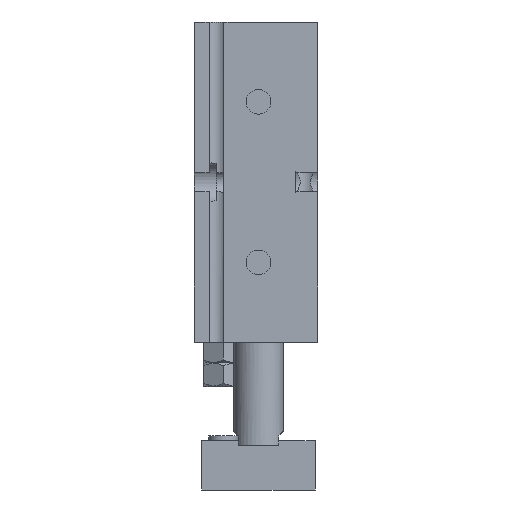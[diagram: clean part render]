
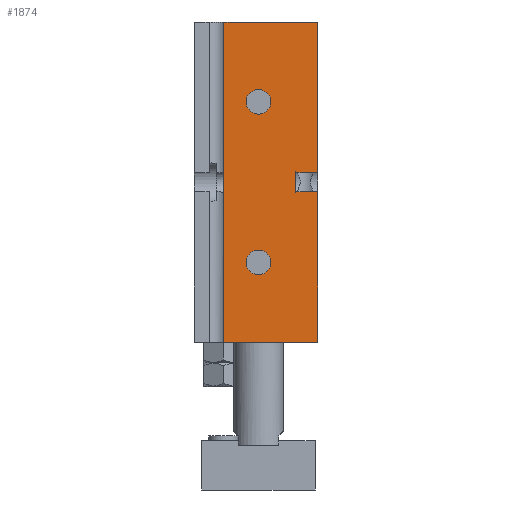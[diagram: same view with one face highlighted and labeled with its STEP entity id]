
A CAD part, front view. The second image highlights one B-rep face of the part: STEP entity #1874.
In plain terms, the highlighted planar face has unit normal (0, -1, 0).
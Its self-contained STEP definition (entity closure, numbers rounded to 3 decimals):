
#1431=CARTESIAN_POINT('',(-7.,-31.,95.0));
#1432=VERTEX_POINT('',#1431);
#1440=CARTESIAN_POINT('',(-7.,-31.,30.0));
#1441=VERTEX_POINT('',#1440);
#1448=CARTESIAN_POINT('',(-7.,-31.,95.0));
#1449=DIRECTION('',(0.0,0.0,-1.0));
#1450=VECTOR('',#1449,65.0);
#1451=LINE('',#1448,#1450);
#1452=EDGE_CURVE('',#1432,#1441,#1451,.T.);
#1603=CARTESIAN_POINT('',(12.,-31.,95.0));
#1604=VERTEX_POINT('',#1603);
#1605=CARTESIAN_POINT('',(12.,-31.,95.0));
#1606=DIRECTION('',(-1.0,0.0,0.0));
#1607=VECTOR('',#1606,19.);
#1608=LINE('',#1605,#1607);
#1609=EDGE_CURVE('',#1604,#1432,#1608,.T.);
#1797=CARTESIAN_POINT('',(12.,-31.,30.0));
#1798=DIRECTION('',(0.0,-1.0,0.0));
#1799=DIRECTION('',(0.0,0.0,-1.0));
#1800=AXIS2_PLACEMENT_3D('',#1797,#1798,#1799);
#1801=PLANE('',#1800);
#1802=ORIENTED_EDGE('',*,*,#1452,.T.);
#1803=CARTESIAN_POINT('',(12.,-31.,30.0));
#1804=VERTEX_POINT('',#1803);
#1805=CARTESIAN_POINT('',(12.,-31.,30.0));
#1806=DIRECTION('',(-1.0,0.0,0.0));
#1807=VECTOR('',#1806,19.);
#1808=LINE('',#1805,#1807);
#1809=EDGE_CURVE('',#1804,#1441,#1808,.T.);
#1810=ORIENTED_EDGE('',*,*,#1809,.F.);
#1811=CARTESIAN_POINT('',(12.,-31.,60.564));
#1812=VERTEX_POINT('',#1811);
#1813=CARTESIAN_POINT('',(12.,-31.,30.0));
#1814=DIRECTION('',(0.0,0.0,1.0));
#1815=VECTOR('',#1814,30.564);
#1816=LINE('',#1813,#1815);
#1817=EDGE_CURVE('',#1804,#1812,#1816,.T.);
#1818=ORIENTED_EDGE('',*,*,#1817,.T.);
#1819=CARTESIAN_POINT('',(7.6,-31.,60.564));
#1820=VERTEX_POINT('',#1819);
#1821=CARTESIAN_POINT('',(12.,-31.,60.564));
#1822=DIRECTION('',(-1.0,0.0,0.0));
#1823=VECTOR('',#1822,4.4);
#1824=LINE('',#1821,#1823);
#1825=EDGE_CURVE('',#1812,#1820,#1824,.T.);
#1826=ORIENTED_EDGE('',*,*,#1825,.T.);
#1827=CARTESIAN_POINT('',(7.6,-31.,64.436));
#1828=VERTEX_POINT('',#1827);
#1829=CARTESIAN_POINT('',(7.6,-31.,60.564));
#1830=DIRECTION('',(0.0,0.0,1.0));
#1831=VECTOR('',#1830,3.873);
#1832=LINE('',#1829,#1831);
#1833=EDGE_CURVE('',#1820,#1828,#1832,.T.);
#1834=ORIENTED_EDGE('',*,*,#1833,.T.);
#1835=CARTESIAN_POINT('',(12.,-31.,64.436));
#1836=VERTEX_POINT('',#1835);
#1837=CARTESIAN_POINT('',(7.6,-31.,64.436));
#1838=DIRECTION('',(1.0,0.0,0.0));
#1839=VECTOR('',#1838,4.4);
#1840=LINE('',#1837,#1839);
#1841=EDGE_CURVE('',#1828,#1836,#1840,.T.);
#1842=ORIENTED_EDGE('',*,*,#1841,.T.);
#1843=CARTESIAN_POINT('',(12.,-31.,64.436));
#1844=DIRECTION('',(0.0,0.0,1.0));
#1845=VECTOR('',#1844,30.564);
#1846=LINE('',#1843,#1845);
#1847=EDGE_CURVE('',#1836,#1604,#1846,.T.);
#1848=ORIENTED_EDGE('',*,*,#1847,.T.);
#1849=ORIENTED_EDGE('',*,*,#1609,.T.);
#1850=EDGE_LOOP('',(#1802,#1810,#1818,#1826,#1834,#1842,#1848,#1849));
#1851=FACE_OUTER_BOUND('',#1850,.T.);
#1852=CARTESIAN_POINT('',(2.5,-31.,78.8));
#1853=VERTEX_POINT('',#1852);
#1854=CARTESIAN_POINT('',(0.0,-31.,78.8));
#1855=DIRECTION('',(0.0,1.0,0.0));
#1856=DIRECTION('',(-1.0,0.0,0.0));
#1857=AXIS2_PLACEMENT_3D('',#1854,#1855,#1856);
#1858=CIRCLE('',#1857,2.5);
#1859=EDGE_CURVE('',#1853,#1853,#1858,.T.);
#1860=ORIENTED_EDGE('',*,*,#1859,.T.);
#1861=EDGE_LOOP('',(#1860));
#1862=FACE_BOUND('',#1861,.T.);
#1863=CARTESIAN_POINT('',(2.5,-31.,46.2));
#1864=VERTEX_POINT('',#1863);
#1865=CARTESIAN_POINT('',(0.0,-31.,46.2));
#1866=DIRECTION('',(0.0,1.0,0.0));
#1867=DIRECTION('',(-1.0,0.0,0.0));
#1868=AXIS2_PLACEMENT_3D('',#1865,#1866,#1867);
#1869=CIRCLE('',#1868,2.5);
#1870=EDGE_CURVE('',#1864,#1864,#1869,.T.);
#1871=ORIENTED_EDGE('',*,*,#1870,.T.);
#1872=EDGE_LOOP('',(#1871));
#1873=FACE_BOUND('',#1872,.T.);
#1874=ADVANCED_FACE('',(#1851,#1862,#1873),#1801,.T.);
